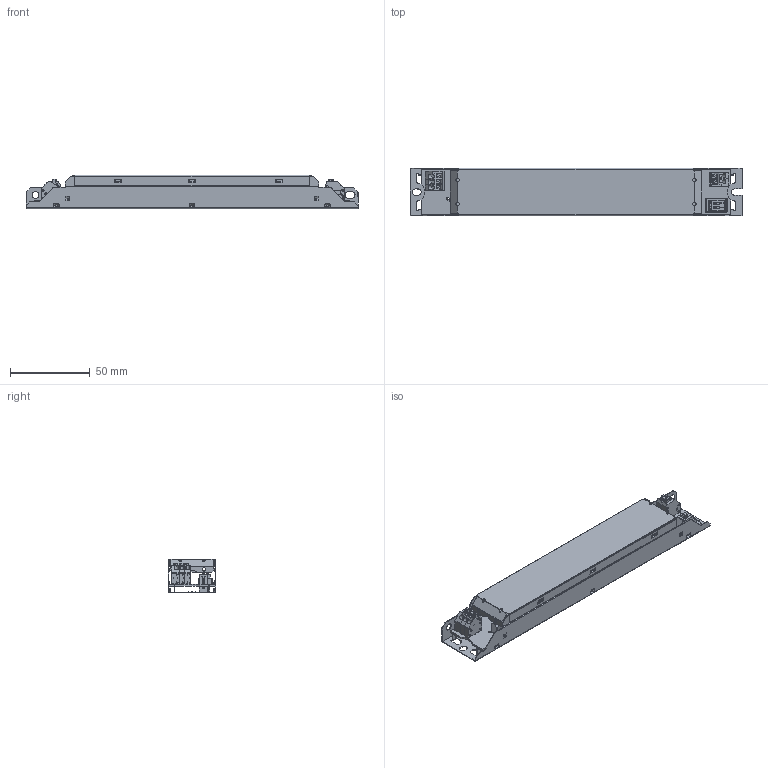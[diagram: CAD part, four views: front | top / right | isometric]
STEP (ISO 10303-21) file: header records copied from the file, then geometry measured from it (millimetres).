
FILE_DESCRIPTION(/* description */ (''),/* implementation_level */ '2;1');
FILE_NAME(/* name */ 'it_fit_g2_18w_40w_60w_75w_d_l_asm_2-15.stp',/* time_stamp */ '2025-02-15T15:02:45+08:00',/* author */ (''),/* organization */ (''),/* preprocessor_version */ 'ST-DEVELOPER v16',/* originating_system */ 'SIEMENS PLM Software NX 10.0',/* authorisation */ '');
FILE_SCHEMA (('AUTOMOTIVE_DESIGN { 1 0 10303 214 3 1 1 1 }'));
Products named in the file (1): _model1
Bounding box: 208 x 30.02 x 21.04 mm (x, y, z)
Volume: 11742.9 mm3; surface area: 56769.9 mm2
Topology: 11 solids, 12 shells, 1850 faces, 5034 edges, 3170 vertices
Faces by surface type: plane 1009, cylinder 642, bspline 84, sphere 83, cone 24, torus 8
Full cylindrical faces by diameter (mm): 4.2 x1
Entity records: 68223 total; most frequent: CARTESIAN_POINT 21896, ORIENTED_EDGE 9858, DIRECTION 9360, EDGE_CURVE 4930, LINE 3252, VECTOR 3252, VERTEX_POINT 3162, AXIS2_PLACEMENT_3D 3054
